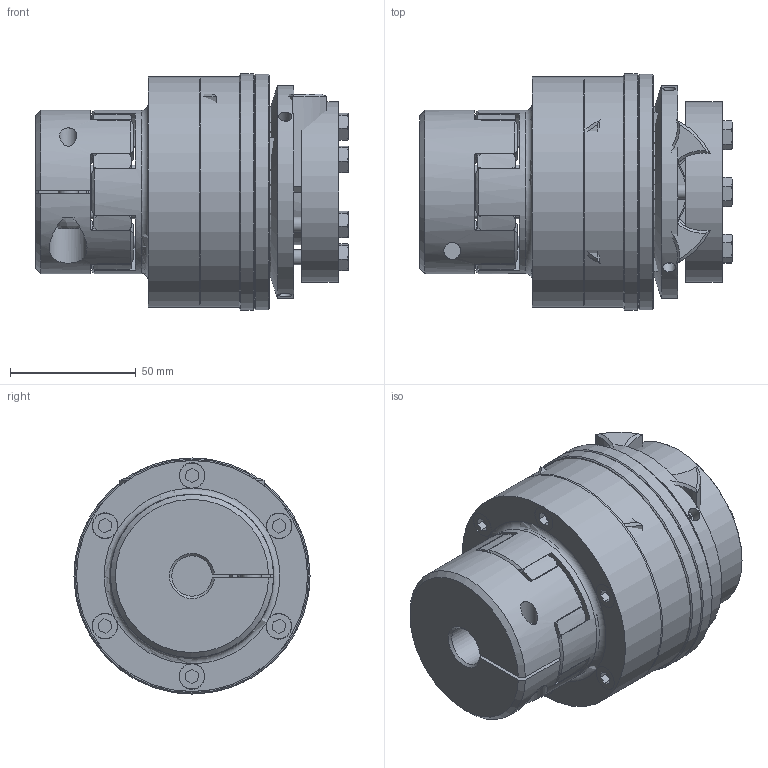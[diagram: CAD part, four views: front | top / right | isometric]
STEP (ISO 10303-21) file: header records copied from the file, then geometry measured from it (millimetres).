
FILE_DESCRIPTION( ( 'Unknown' ), '1' );
FILE_NAME( 'C:/Dokumente und Einstellungen/Sven/Desktop/hp kbk/E-KA/KBK EKA-28-130.stp', 'Unknown', ( 'Unknown' ), ( 'Unknown' ), 'XStep 1.0', 'Unknown', ' ' );
FILE_SCHEMA( ( 'automotive_design' ) );
Length unit declared in the file: millimetre
Products named in the file (18): Assem1; Assem2; Assem3; Zylinderschraube DIN 912_0; ball_bearing_-_6008_0_01_0; ball_bearing_-_6008_0_02_0; ball_bearing_-_6008_0_03_0; Stellring 80; Druckring 80; Flansch 80; a_40; Elastomerflansch 28; Zahnkranz EK28_Standard; KBK L-A-80 Grundkörper; Druckring L-A-80; din_en_24017_m6x25; schraube_iso_7380-m8x25-12_9; KBE 2 C - 28_Nabe
Bounding box: 124.6 x 94 x 94 mm (x, y, z)
Volume: 996329.5 mm3; surface area: 332544.5 mm2
Topology: 44 solids, 44 shells, 1051 faces, 2400 edges, 1540 vertices
Faces by surface type: plane 391, cylinder 332, cone 272, torus 54, bspline 2
Full cylindrical faces by diameter (mm): 2.5 x4, 3.242 x6, 4.917 x24, 5 x24, 5.2 x6, 6 x15, 6.2 x12, 6.6 x12, 6.8 x2, 8 x2, 8.8 x7, 9 x2, 10 x8, 10.2 x12, 19 x2, 30 x6, 37.5 x2, 40 x7, 42.29 x2, 49.2 x6, 59.1 x6, 61 x2, 62 x4, 65 x2, 68 x7, 70 x2, 72 x2, 85 x2, 87 x2, 90 x4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
Entity records: 12593 total; most frequent: CARTESIAN_POINT 2997, DIRECTION 2037, ORIENTED_EDGE 1606, AXIS2_PLACEMENT_3D 938, EDGE_CURVE 803, EDGE_LOOP 648, VERTEX_POINT 582, FACE_OUTER_BOUND 519
